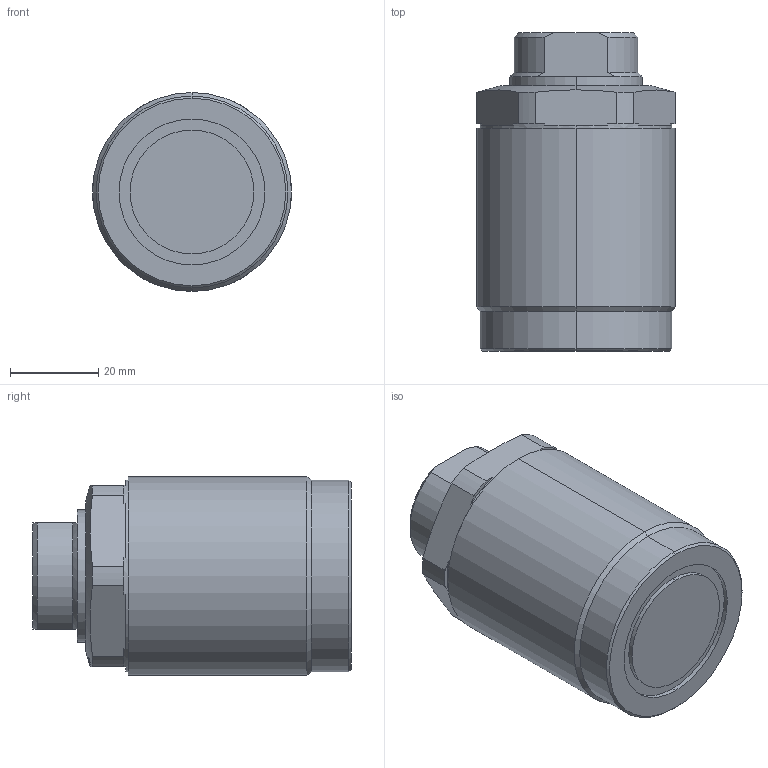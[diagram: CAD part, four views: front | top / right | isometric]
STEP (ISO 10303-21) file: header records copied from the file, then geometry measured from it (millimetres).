
FILE_DESCRIPTION (( 'STEP AP203' ), '1' );
FILE_NAME ('T03C-M455-M threaded pusher.STEP', '2022-07-09T17:44:02', ( '' ), ( '' ), 'SwSTEP 2.0', 'SolidWorks 2017', '' );
FILE_SCHEMA (( 'CONFIG_CONTROL_DESIGN' ));
Length unit declared in the file: millimetre
Products named in the file (3): T03C-M455-M part-1; T03C-M455-M part-2; T03C-M455-M threaded pusher
Assembly tree (2 placements, depth 2):
  T03C-M455-M threaded pusher
    T03C-M455-M part-1
    T03C-M455-M part-2
Bounding box: 45 x 72 x 45 mm (x, y, z)
Volume: 121412.8 mm3; surface area: 17424.9 mm2
Topology: 2 solids, 2 shells, 262 faces, 696 edges, 459 vertices
Faces by surface type: plane 148, bspline 78, cylinder 22, cone 14
Entity records: 12487 total; most frequent: CARTESIAN_POINT 6332, ORIENTED_EDGE 1388, DIRECTION 892, EDGE_CURVE 694, VERTEX_POINT 459, LINE 382, VECTOR 382, EDGE_LOOP 285
